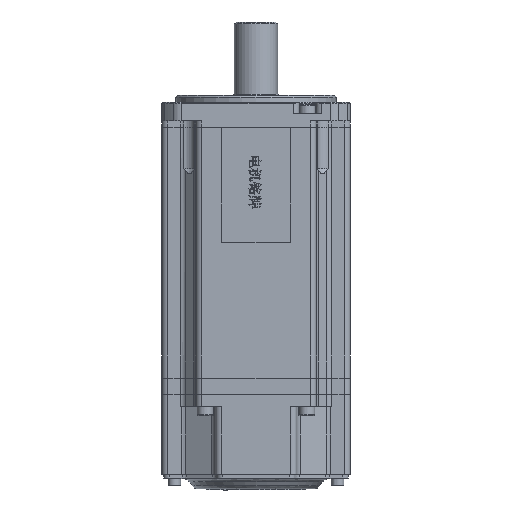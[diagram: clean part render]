
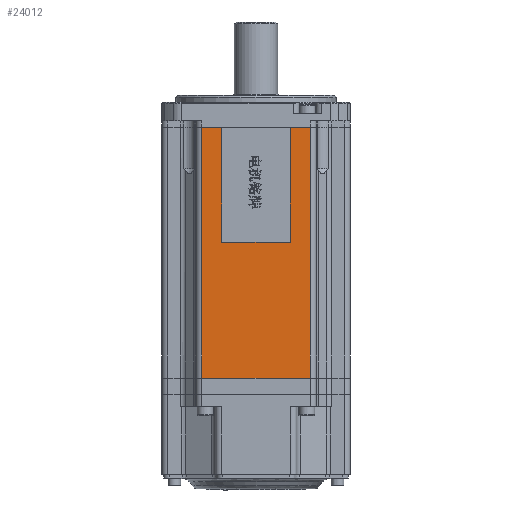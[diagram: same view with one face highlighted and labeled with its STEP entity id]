
A CAD part, front view. The second image highlights one B-rep face of the part: STEP entity #24012.
In plain terms, the highlighted planar face has unit normal (0, -1, 0).
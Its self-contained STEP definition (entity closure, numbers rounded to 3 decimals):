
#2745 = ORIENTED_EDGE ( 'NONE', *, *, #78401, .T. ) ;
#4323 = VERTEX_POINT ( 'NONE', #27975 ) ;
#4748 = VERTEX_POINT ( 'NONE', #57236 ) ;
#5166 = CARTESIAN_POINT ( 'NONE',  ( 15., -41., 109.2 ) ) ;
#7672 = CARTESIAN_POINT ( 'NONE',  ( -15., -41., 59.2 ) ) ;
#7784 = CARTESIAN_POINT ( 'NONE',  ( -23.75, -41., 1000. ) ) ;
#8030 = LINE ( 'NONE', #7672, #57543 ) ;
#8782 = CARTESIAN_POINT ( 'NONE',  ( -198.803, -41., 109.2 ) ) ;
#9013 = EDGE_CURVE ( 'NONE', #62306, #4323, #55492, .T. ) ;
#10654 = AXIS2_PLACEMENT_3D ( 'NONE', #7784, #57130, #77018 ) ;
#11159 = VERTEX_POINT ( 'NONE', #67770 ) ;
#11700 = LINE ( 'NONE', #45498, #50557 ) ;
#11827 = LINE ( 'NONE', #73322, #79932 ) ;
#12127 = ORIENTED_EDGE ( 'NONE', *, *, #46166, .T. ) ;
#15576 = DIRECTION ( 'NONE',  ( -1., 0., 0. ) ) ;
#15601 = CARTESIAN_POINT ( 'NONE',  ( 23.75, -41., 0. ) ) ;
#19002 = ORIENTED_EDGE ( 'NONE', *, *, #72514, .F. ) ;
#21056 = EDGE_CURVE ( 'NONE', #4748, #70361, #11700, .T. ) ;
#24012 = ADVANCED_FACE ( 'NONE', ( #41927 ), #63672, .F. ) ;
#26061 = DIRECTION ( 'NONE',  ( 0., 0., -1. ) ) ;
#27262 = CARTESIAN_POINT ( 'NONE',  ( -15., -41., 59.2 ) ) ;
#27975 = CARTESIAN_POINT ( 'NONE',  ( -23.75, -41., 109.2 ) ) ;
#28787 = DIRECTION ( 'NONE',  ( 0., 0., 1. ) ) ;
#30418 = VERTEX_POINT ( 'NONE', #5166 ) ;
#34239 = DIRECTION ( 'NONE',  ( -1., 0., 0. ) ) ;
#37165 = DIRECTION ( 'NONE',  ( 0., 0., -1. ) ) ;
#37611 = CARTESIAN_POINT ( 'NONE',  ( -23.75, -41., 0. ) ) ;
#37814 = DIRECTION ( 'NONE',  ( 1., 0., 0. ) ) ;
#41061 = CARTESIAN_POINT ( 'NONE',  ( -198.803, -41., 109.2 ) ) ;
#41927 = FACE_OUTER_BOUND ( 'NONE', #75998, .T. ) ;
#44258 = EDGE_CURVE ( 'NONE', #70209, #70361, #46992, .T. ) ;
#44701 = DIRECTION ( 'NONE',  ( 0., 0., -1. ) ) ;
#45037 = VECTOR ( 'NONE', #37814, 1000. ) ;
#45498 = CARTESIAN_POINT ( 'NONE',  ( 23.75, -41., 1000. ) ) ;
#46166 = EDGE_CURVE ( 'NONE', #4748, #30418, #77003, .T. ) ;
#46992 = LINE ( 'NONE', #54629, #45037 ) ;
#49462 = LINE ( 'NONE', #66616, #76852 ) ;
#50557 = VECTOR ( 'NONE', #44701, 1000. ) ;
#51240 = ORIENTED_EDGE ( 'NONE', *, *, #9013, .T. ) ;
#53053 = ORIENTED_EDGE ( 'NONE', *, *, #54180, .F. ) ;
#53795 = CARTESIAN_POINT ( 'NONE',  ( 15., -41., 59.2 ) ) ;
#54180 = EDGE_CURVE ( 'NONE', #62306, #56822, #8030, .T. ) ;
#54629 = CARTESIAN_POINT ( 'NONE',  ( -23.75, -41., 0. ) ) ;
#55492 = LINE ( 'NONE', #8782, #71107 ) ;
#56499 = VECTOR ( 'NONE', #15576, 1000. ) ;
#56822 = VERTEX_POINT ( 'NONE', #27262 ) ;
#57130 = DIRECTION ( 'NONE',  ( 0., 1., 0. ) ) ;
#57236 = CARTESIAN_POINT ( 'NONE',  ( 23.75, -41., 109.2 ) ) ;
#57543 = VECTOR ( 'NONE', #26061, 1000. ) ;
#60996 = LINE ( 'NONE', #53795, #70732 ) ;
#62038 = ORIENTED_EDGE ( 'NONE', *, *, #44258, .T. ) ;
#62306 = VERTEX_POINT ( 'NONE', #68728 ) ;
#63593 = ORIENTED_EDGE ( 'NONE', *, *, #21056, .F. ) ;
#63672 = PLANE ( 'NONE',  #10654 ) ;
#66616 = CARTESIAN_POINT ( 'NONE',  ( -15., -41., 59.2 ) ) ;
#67770 = CARTESIAN_POINT ( 'NONE',  ( 15., -41., 59.2 ) ) ;
#68728 = CARTESIAN_POINT ( 'NONE',  ( -15., -41., 109.2 ) ) ;
#70209 = VERTEX_POINT ( 'NONE', #37611 ) ;
#70361 = VERTEX_POINT ( 'NONE', #15601 ) ;
#70720 = ORIENTED_EDGE ( 'NONE', *, *, #74078, .F. ) ;
#70732 = VECTOR ( 'NONE', #28787, 1000. ) ;
#71107 = VECTOR ( 'NONE', #34239, 1000. ) ;
#72514 = EDGE_CURVE ( 'NONE', #56822, #11159, #49462, .T. ) ;
#72574 = DIRECTION ( 'NONE',  ( 1., 0., 0. ) ) ;
#73322 = CARTESIAN_POINT ( 'NONE',  ( -23.75, -41., 1000. ) ) ;
#74078 = EDGE_CURVE ( 'NONE', #11159, #30418, #60996, .T. ) ;
#75998 = EDGE_LOOP ( 'NONE', ( #12127, #70720, #19002, #53053, #51240, #2745, #62038, #63593 ) ) ;
#76852 = VECTOR ( 'NONE', #72574, 1000. ) ;
#77003 = LINE ( 'NONE', #41061, #56499 ) ;
#77018 = DIRECTION ( 'NONE',  ( 0., 0., 1. ) ) ;
#78401 = EDGE_CURVE ( 'NONE', #4323, #70209, #11827, .T. ) ;
#79932 = VECTOR ( 'NONE', #37165, 1000. ) ;
